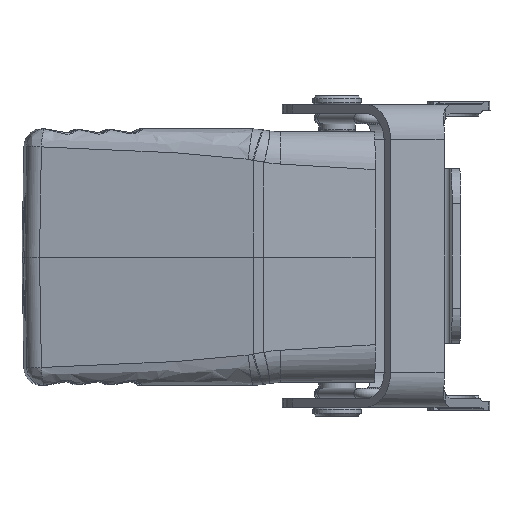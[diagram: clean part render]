
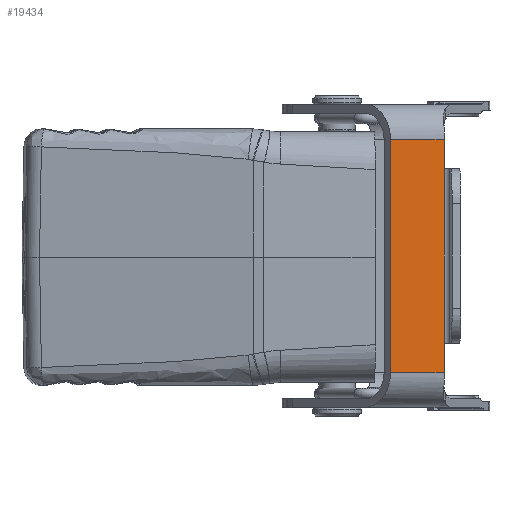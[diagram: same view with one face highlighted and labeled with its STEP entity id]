
A CAD part, left-side view. The second image highlights one B-rep face of the part: STEP entity #19434.
In plain terms, the highlighted planar face has unit normal (-0.999, -0.038, 0).
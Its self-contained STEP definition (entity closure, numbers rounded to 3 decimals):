
#1033 = VECTOR ( 'NONE', #8315, 1000. ) ;
#1971 = FACE_OUTER_BOUND ( 'NONE', #21862, .T. ) ;
#3612 = CARTESIAN_POINT ( 'NONE',  ( -40.131, -12.199, -20. ) ) ;
#3913 = ORIENTED_EDGE ( 'NONE', *, *, #17187, .F. ) ;
#4393 = EDGE_CURVE ( 'NONE', #9253, #8251, #23761, .T. ) ;
#4825 = DIRECTION ( 'NONE',  ( 0., 0., 1. ) ) ;
#4911 = VECTOR ( 'NONE', #28854, 1000. ) ;
#5236 = CARTESIAN_POINT ( 'NONE',  ( -40.131, -12.199, -26.5 ) ) ;
#5407 = DIRECTION ( 'NONE',  ( -0.999, -0.038, 0. ) ) ;
#5538 = LINE ( 'NONE', #16289, #30840 ) ;
#5596 = CARTESIAN_POINT ( 'NONE',  ( -40.131, -12.199, 20. ) ) ;
#5731 = EDGE_CURVE ( 'NONE', #8251, #7839, #7597, .T. ) ;
#5965 = EDGE_CURVE ( 'NONE', #9253, #8480, #13308, .T. ) ;
#6324 = CARTESIAN_POINT ( 'NONE',  ( -41.133, 14.439, -20. ) ) ;
#7213 = VECTOR ( 'NONE', #19487, 1000. ) ;
#7546 = LINE ( 'NONE', #20531, #1033 ) ;
#7597 = LINE ( 'NONE', #29754, #7213 ) ;
#7839 = VERTEX_POINT ( 'NONE', #17902 ) ;
#8251 = VERTEX_POINT ( 'NONE', #11604 ) ;
#8315 = DIRECTION ( 'NONE',  ( 0., 0., 1. ) ) ;
#8480 = VERTEX_POINT ( 'NONE', #19875 ) ;
#9253 = VERTEX_POINT ( 'NONE', #3612 ) ;
#10071 = VECTOR ( 'NONE', #4825, 1000. ) ;
#11604 = CARTESIAN_POINT ( 'NONE',  ( -40.477, -3.005, -20. ) ) ;
#12897 = CARTESIAN_POINT ( 'NONE',  ( -40.477, -3.005, -26.5 ) ) ;
#13308 = LINE ( 'NONE', #28539, #4911 ) ;
#13547 = CARTESIAN_POINT ( 'NONE',  ( -40.131, -12.199, 15. ) ) ;
#14677 = EDGE_CURVE ( 'NONE', #8480, #16740, #7546, .T. ) ;
#16058 = DIRECTION ( 'NONE',  ( -0.038, 0.999, 0. ) ) ;
#16289 = CARTESIAN_POINT ( 'NONE',  ( -39.861, -19.357, 20. ) ) ;
#16740 = VERTEX_POINT ( 'NONE', #13547 ) ;
#17187 = EDGE_CURVE ( 'NONE', #7839, #19899, #5538, .T. ) ;
#17902 = CARTESIAN_POINT ( 'NONE',  ( -40.477, -3.005, 20. ) ) ;
#18105 = ORIENTED_EDGE ( 'NONE', *, *, #14677, .T. ) ;
#18426 = EDGE_CURVE ( 'NONE', #16740, #19899, #23144, .T. ) ;
#19434 = ADVANCED_FACE ( 'NONE', ( #1971 ), #20315, .T. ) ;
#19487 = DIRECTION ( 'NONE',  ( 0., 0., 1. ) ) ;
#19875 = CARTESIAN_POINT ( 'NONE',  ( -40.131, -12.199, -15. ) ) ;
#19899 = VERTEX_POINT ( 'NONE', #5596 ) ;
#20315 = PLANE ( 'NONE',  #28767 ) ;
#20531 = CARTESIAN_POINT ( 'NONE',  ( -40.131, -12.199, -26.5 ) ) ;
#21862 = EDGE_LOOP ( 'NONE', ( #3913, #27729, #27278, #24918, #18105, #25518 ) ) ;
#22375 = DIRECTION ( 'NONE',  ( 0., 0., -1. ) ) ;
#23144 = LINE ( 'NONE', #5236, #10071 ) ;
#23761 = LINE ( 'NONE', #6324, #29502 ) ;
#24918 = ORIENTED_EDGE ( 'NONE', *, *, #5965, .T. ) ;
#25518 = ORIENTED_EDGE ( 'NONE', *, *, #18426, .T. ) ;
#26076 = DIRECTION ( 'NONE',  ( 0.038, -0.999, 0. ) ) ;
#27278 = ORIENTED_EDGE ( 'NONE', *, *, #4393, .F. ) ;
#27729 = ORIENTED_EDGE ( 'NONE', *, *, #5731, .F. ) ;
#28539 = CARTESIAN_POINT ( 'NONE',  ( -40.131, -12.199, -26.5 ) ) ;
#28767 = AXIS2_PLACEMENT_3D ( 'NONE', #12897, #5407, #22375 ) ;
#28854 = DIRECTION ( 'NONE',  ( 0., 0., 1. ) ) ;
#29502 = VECTOR ( 'NONE', #16058, 1000. ) ;
#29754 = CARTESIAN_POINT ( 'NONE',  ( -40.477, -3.005, -26.5 ) ) ;
#30840 = VECTOR ( 'NONE', #26076, 1000. ) ;
